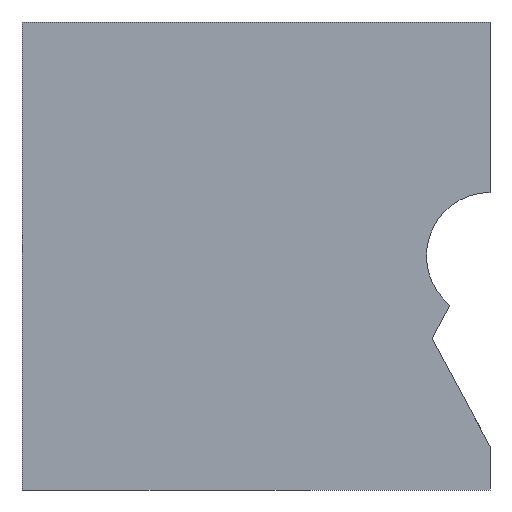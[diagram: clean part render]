
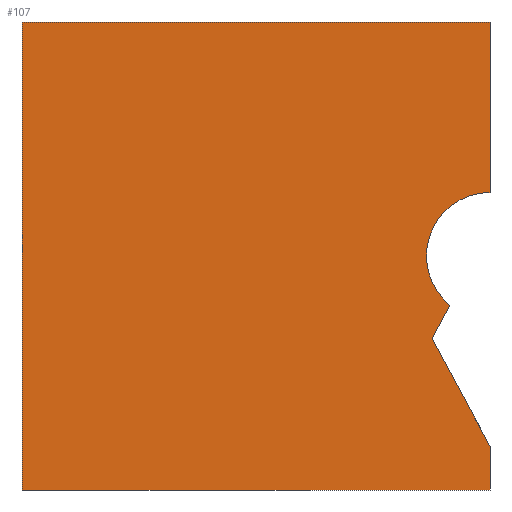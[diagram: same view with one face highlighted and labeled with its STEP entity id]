
A CAD part, left-side view. The second image highlights one B-rep face of the part: STEP entity #107.
In plain terms, the highlighted planar face has unit normal (-1, 0, 0).
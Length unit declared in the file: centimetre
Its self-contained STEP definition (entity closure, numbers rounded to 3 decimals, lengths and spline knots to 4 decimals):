
#35 = DIRECTION ( 'NONE',  ( 0., -0.473, -0.881 ) ) ;
#51 = VERTEX_POINT ( 'NONE', #385 ) ;
#57 = VERTEX_POINT ( 'NONE', #1072 ) ;
#84 = VERTEX_POINT ( 'NONE', #726 ) ;
#102 = LINE ( 'NONE', #718, #1134 ) ;
#107 = ADVANCED_FACE ( 'NONE', ( #349 ), #1056, .F. ) ;
#122 = AXIS2_PLACEMENT_3D ( 'NONE', #150, #261, #940 ) ;
#127 = CARTESIAN_POINT ( 'NONE',  ( 0., 0., 1000. ) ) ;
#143 = ORIENTED_EDGE ( 'NONE', *, *, #624, .F. ) ;
#150 = CARTESIAN_POINT ( 'NONE',  ( 0., 1000., 1000. ) ) ;
#156 = VERTEX_POINT ( 'NONE', #725 ) ;
#163 = VERTEX_POINT ( 'NONE', #572 ) ;
#201 = EDGE_CURVE ( 'NONE', #51, #84, #998, .T. ) ;
#203 = VECTOR ( 'NONE', #994, 100. ) ;
#212 = CARTESIAN_POINT ( 'NONE',  ( 0., 0., 93.4683 ) ) ;
#256 = CIRCLE ( 'NONE', #839, 135.7258 ) ;
#261 = DIRECTION ( 'NONE',  ( 1., 0., 0. ) ) ;
#268 = CARTESIAN_POINT ( 'NONE',  ( 0., 123.8224, 324.1865 ) ) ;
#298 = CARTESIAN_POINT ( 'NONE',  ( 0., 1000., 0. ) ) ;
#341 = ORIENTED_EDGE ( 'NONE', *, *, #992, .F. ) ;
#342 = LINE ( 'NONE', #542, #612 ) ;
#349 = FACE_OUTER_BOUND ( 'NONE', #996, .T. ) ;
#360 = ORIENTED_EDGE ( 'NONE', *, *, #201, .T. ) ;
#377 = EDGE_CURVE ( 'NONE', #163, #156, #256, .T. ) ;
#385 = CARTESIAN_POINT ( 'NONE',  ( 0., 1000., 0. ) ) ;
#391 = LINE ( 'NONE', #212, #480 ) ;
#417 = ORIENTED_EDGE ( 'NONE', *, *, #377, .F. ) ;
#460 = DIRECTION ( 'NONE',  ( 0., -1., 0. ) ) ;
#480 = VECTOR ( 'NONE', #35, 100. ) ;
#523 = VERTEX_POINT ( 'NONE', #1063 ) ;
#535 = DIRECTION ( 'NONE',  ( 0., 0., -1. ) ) ;
#537 = EDGE_CURVE ( 'NONE', #57, #51, #342, .T. ) ;
#542 = CARTESIAN_POINT ( 'NONE',  ( 0., 1000., 1000. ) ) ;
#570 = LINE ( 'NONE', #655, #668 ) ;
#572 = CARTESIAN_POINT ( 'NONE',  ( 0., 0., 635.7258 ) ) ;
#612 = VECTOR ( 'NONE', #535, 100. ) ;
#624 = EDGE_CURVE ( 'NONE', #156, #879, #570, .T. ) ;
#629 = LINE ( 'NONE', #987, #203 ) ;
#632 = EDGE_CURVE ( 'NONE', #656, #163, #102, .T. ) ;
#642 = CARTESIAN_POINT ( 'NONE',  ( 0., 0., 1000. ) ) ;
#655 = CARTESIAN_POINT ( 'NONE',  ( 0., 123.8224, 324.1865 ) ) ;
#656 = VERTEX_POINT ( 'NONE', #642 ) ;
#668 = VECTOR ( 'NONE', #807, 100. ) ;
#674 = DIRECTION ( 'NONE',  ( 0., 0., -1. ) ) ;
#676 = CARTESIAN_POINT ( 'NONE',  ( 0., 0., 500. ) ) ;
#694 = ORIENTED_EDGE ( 'NONE', *, *, #1137, .F. ) ;
#701 = ORIENTED_EDGE ( 'NONE', *, *, #632, .F. ) ;
#716 = VECTOR ( 'NONE', #674, 100. ) ;
#718 = CARTESIAN_POINT ( 'NONE',  ( 0., 0., 1000. ) ) ;
#725 = CARTESIAN_POINT ( 'NONE',  ( 0., 85.8745, 394.8949 ) ) ;
#726 = CARTESIAN_POINT ( 'NONE',  ( 0., 0., 0. ) ) ;
#762 = LINE ( 'NONE', #127, #716 ) ;
#793 = EDGE_CURVE ( 'NONE', #523, #84, #762, .T. ) ;
#801 = VECTOR ( 'NONE', #460, 100. ) ;
#807 = DIRECTION ( 'NONE',  ( 0., 0.473, -0.881 ) ) ;
#839 = AXIS2_PLACEMENT_3D ( 'NONE', #676, #853, #1032 ) ;
#853 = DIRECTION ( 'NONE',  ( -1., 0., 0. ) ) ;
#879 = VERTEX_POINT ( 'NONE', #268 ) ;
#940 = DIRECTION ( 'NONE',  ( 0., 0., -1. ) ) ;
#987 = CARTESIAN_POINT ( 'NONE',  ( 0., 1000., 1000. ) ) ;
#992 = EDGE_CURVE ( 'NONE', #57, #656, #629, .T. ) ;
#994 = DIRECTION ( 'NONE',  ( 0., -1., 0. ) ) ;
#996 = EDGE_LOOP ( 'NONE', ( #1120, #694, #143, #417, #701, #341, #1043, #360 ) ) ;
#998 = LINE ( 'NONE', #298, #801 ) ;
#1032 = DIRECTION ( 'NONE',  ( 0., 0., 1. ) ) ;
#1043 = ORIENTED_EDGE ( 'NONE', *, *, #537, .T. ) ;
#1056 = PLANE ( 'NONE',  #122 ) ;
#1063 = CARTESIAN_POINT ( 'NONE',  ( 0., 0., 93.4683 ) ) ;
#1072 = CARTESIAN_POINT ( 'NONE',  ( 0., 1000., 1000. ) ) ;
#1078 = DIRECTION ( 'NONE',  ( 0., 0., -1. ) ) ;
#1120 = ORIENTED_EDGE ( 'NONE', *, *, #793, .F. ) ;
#1134 = VECTOR ( 'NONE', #1078, 100. ) ;
#1137 = EDGE_CURVE ( 'NONE', #879, #523, #391, .T. ) ;
